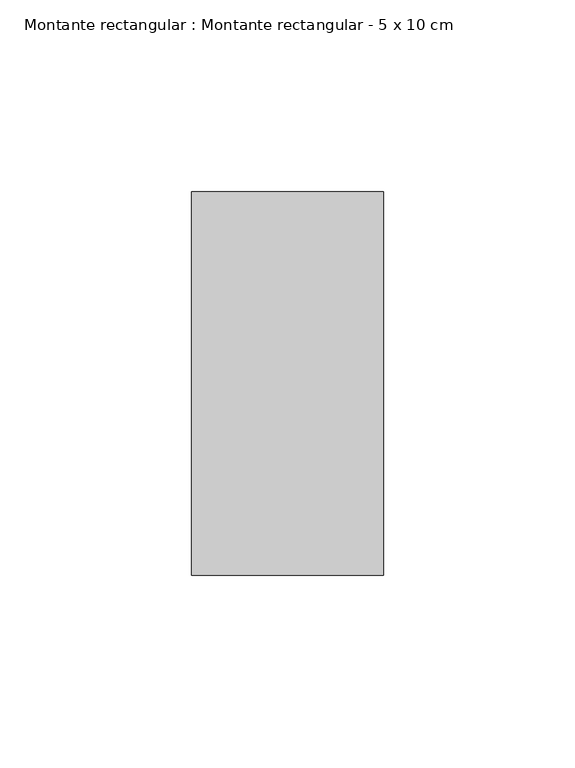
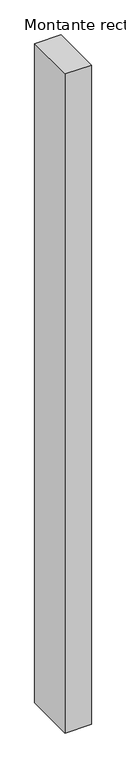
"""IFC4 building model written with IfcOpenShell, lengths in millimetres: member geometry, Montante rectangular : Montante rectangular - 5 x 10 cm."""

import ifcopenshell
import ifcopenshell.guid

model = None  # the IFC model being written
_history = None  # IfcOwnerHistory: only IFC2X3 demands one
_inside = {}  # id of a spatial element -> (the spatial element, [elements in it])
_under = {}  # id of a project, library or spatial element -> (it, [spatial elements below it])
_declared = {}  # id of a project -> (the project, [libraries it declares])
_typed = {}  # id of a type object -> (the type object, [elements of that type])
_made_of = {}  # id of a material, layer set ... -> (it, [elements and type objects made of it])


def new_model(schema):
    """Start an empty IFC model of exactly this schema.

    Asked for "IFC4X3", IfcOpenShell would pick the latest addendum, in which some entities
    have other attributes; the version numbers below select the first issue.
    IFC2X3 requires an IfcOwnerHistory on every rooted entity: one is made here for all.
    """
    global model, _history
    if schema == "IFC4X3":
        model = ifcopenshell.file(schema_version=(4, 3, 0, 0))
    else:
        model = ifcopenshell.file(schema=schema)
    _inside.clear()
    _under.clear()
    _declared.clear()
    _typed.clear()
    _made_of.clear()
    _history = None
    if model.schema == "IFC2X3":
        org = make("IfcOrganization", Name="unknown")
        user = make(
            "IfcPersonAndOrganization",
            ThePerson=make("IfcPerson", FamilyName="unknown"),
            TheOrganization=org,
        )
        app = make(
            "IfcApplication",
            ApplicationDeveloper=org,
            Version="unknown",
            ApplicationFullName="unknown",
            ApplicationIdentifier="unknown",
        )
        _history = make(
            "IfcOwnerHistory",
            OwningUser=user,
            OwningApplication=app,
            ChangeAction="ADDED",
            CreationDate=0,
        )
    return model


def make(cls, **values):
    """One entity of the class cls with the attributes given. An attribute that is None is left unset."""
    return model.create_entity(
        cls, **{name: value for name, value in values.items() if value is not None}
    )


def rooted(cls, **values):
    """An entity with a GlobalId (a new one), such as an element, a storey or a relation."""
    return make(cls, GlobalId=ifcopenshell.guid.new(), OwnerHistory=_history, **values)


def si_unit(unit_type, name, prefix=None):
    """IfcSIUnit, for example si_unit("LENGTHUNIT", "METRE", prefix="MILLI")."""
    return make("IfcSIUnit", UnitType=unit_type, Prefix=prefix, Name=name)


def assignment(units):
    """IfcUnitAssignment: the units of a project."""
    return None if units is None else make("IfcUnitAssignment", Units=units)


def point(xyz):
    """IfcCartesianPoint."""
    return None if xyz is None else make("IfcCartesianPoint", Coordinates=xyz)


def direction(xyz):
    """IfcDirection."""
    return None if xyz is None else make("IfcDirection", DirectionRatios=xyz)


def frame(location, z_axis=None, x_axis=None):
    """IfcAxis2Placement3D, a coordinate frame: its origin and axes. An axis left out is left unset."""
    return make(
        "IfcAxis2Placement3D",
        Location=point(location),
        Axis=direction(z_axis),
        RefDirection=direction(x_axis),
    )


def origin():
    """The frame at (0, 0, 0) with its axes left unset."""
    return frame((0.0, 0.0, 0.0))


def place(relative_to, where):
    """IfcLocalPlacement: puts the frame where relative to a parent placement (None: the world)."""
    return make(
        "IfcLocalPlacement", PlacementRelTo=relative_to, RelativePlacement=where
    )


def context(
    kind, dimensions, precision=None, world=None, true_north=None, identifier=None
):
    """IfcGeometricRepresentationContext, for example the 3D "Model" context."""
    return make(
        "IfcGeometricRepresentationContext",
        ContextIdentifier=identifier,
        ContextType=kind,
        CoordinateSpaceDimension=dimensions,
        Precision=precision,
        WorldCoordinateSystem=world,
        TrueNorth=true_north,
    )


def project(units=None, contexts=None):
    """IfcProject with its units and contexts."""
    return rooted(
        "IfcProject",
        Name="project",
        RepresentationContexts=contexts,
        UnitsInContext=assignment(units),
    )


def spatial(cls, under=None, at=None, **own):
    """A site, building, storey or space (cls), placed at a placement, below another one or the project."""
    s = rooted(cls, ObjectPlacement=at, **own)
    if under is not None:
        _under.setdefault(under.id(), (under, []))[1].append(s)
    return s


def polyline(points):
    """IfcPolyline through the points."""
    return make("IfcPolyline", Points=[point(p) for p in points])


def outline(outer, holes=None, kind="AREA"):
    """IfcArbitraryClosedProfileDef: a profile drawn as a closed curve; with holes, ...WithVoids."""
    if holes is None:
        return make("IfcArbitraryClosedProfileDef", ProfileType=kind, OuterCurve=outer)
    return make(
        "IfcArbitraryProfileDefWithVoids",
        ProfileType=kind,
        OuterCurve=outer,
        InnerCurves=holes,
    )


def extrude(swept, where, along, depth):
    """IfcExtrudedAreaSolid: the profile swept, set in the frame where, extruded along a direction by depth."""
    return make(
        "IfcExtrudedAreaSolid",
        SweptArea=swept,
        Position=where,
        ExtrudedDirection=direction(along),
        Depth=depth,
    )


def shape(context_of_items, identifier, shape_type, items):
    """IfcShapeRepresentation: the items that make up one representation, for example the "Body"."""
    return make(
        "IfcShapeRepresentation",
        ContextOfItems=context_of_items,
        RepresentationIdentifier=identifier,
        RepresentationType=shape_type,
        Items=items,
    )


def source(mapping_origin, context_of_items, identifier, shape_type, items):
    """IfcRepresentationMap: a shape defined once, which mapped items show again and again."""
    return make(
        "IfcRepresentationMap",
        MappingOrigin=mapping_origin,
        MappedRepresentation=shape(context_of_items, identifier, shape_type, items),
    )


def transform(
    local_origin,
    x_axis=None,
    y_axis=None,
    z_axis=None,
    scale=None,
    scale2=None,
    scale3=None,
    uniform=True,
):
    """IfcCartesianTransformationOperator3D, or its non-uniform kind. x_axis, y_axis, z_axis: its Axis1, 2, 3."""
    if uniform:
        return make(
            "IfcCartesianTransformationOperator3D",
            Axis1=direction(x_axis),
            Axis2=direction(y_axis),
            LocalOrigin=point(local_origin),
            Scale=scale,
            Axis3=direction(z_axis),
        )
    return make(
        "IfcCartesianTransformationOperator3DnonUniform",
        Axis1=direction(x_axis),
        Axis2=direction(y_axis),
        LocalOrigin=point(local_origin),
        Scale=scale,
        Axis3=direction(z_axis),
        Scale2=scale2,
        Scale3=scale3,
    )


def mapped(mapping_source, mapping_target):
    """IfcMappedItem: shows the shape of a source again, moved by a transform."""
    return make(
        "IfcMappedItem", MappingSource=mapping_source, MappingTarget=mapping_target
    )


def made_of(thing, what):
    """Note that an element or type object is made of a material, layer set ...; save() writes the relation."""
    if what is not None:
        _made_of.setdefault(what.id(), (what, []))[1].append(thing)
    return thing


def element(
    cls,
    number,
    at=None,
    inside=None,
    cuts=None,
    type_object=None,
    material=None,
    context=None,
    identifier="Body",
    shape_type=None,
    held_by="IfcProductDefinitionShape",
    body=None,
    shapes=None,
    **own,
):
    """One element of the class cls, such as IfcWall. Its Tag is "e" and its number.

    at: its placement. inside: the storey or other place that contains it. cuts: it is an
    opening in that element (IfcRelVoidsElement). A single representation is given by context,
    identifier, shape_type and body (its items); several are given by shapes. held_by: the class
    of the entity that holds the representations. save() writes the other relations.
    """
    e = rooted(cls, Tag="e%d" % number, ObjectPlacement=at, **own)
    if body is not None:
        shapes = [shape(context, identifier, shape_type, body)]
    if shapes is not None:
        e.Representation = make(held_by, Representations=shapes)
    if inside is not None:
        _inside.setdefault(inside.id(), (inside, []))[1].append(e)
    if cuts is not None:
        rooted(
            "IfcRelVoidsElement", RelatingBuildingElement=cuts, RelatedOpeningElement=e
        )
    if type_object is not None:
        _typed.setdefault(type_object.id(), (type_object, []))[1].append(e)
    return made_of(e, material)


def aggregate(whole, parts):
    """IfcRelAggregates: a whole, such as a stair, and the parts it consists of."""
    return rooted("IfcRelAggregates", RelatingObject=whole, RelatedObjects=parts)


def save(model, path):
    """Write the relations noted so far, then the file.

    IfcRelAggregates (storeys below a building ...), IfcRelContainedInSpatialStructure (elements
    in a storey), IfcRelDefinesByType, IfcRelAssociatesMaterial and IfcRelDeclares: one each for
    every whole, place, type object, material and project.
    """
    for whole, parts in _under.values():
        aggregate(whole, parts)
    for where, things in _inside.values():
        rooted(
            "IfcRelContainedInSpatialStructure",
            RelatedElements=things,
            RelatingStructure=where,
        )
    for kind, things in _typed.values():
        rooted("IfcRelDefinesByType", RelatedObjects=things, RelatingType=kind)
    for what, things in _made_of.values():
        rooted("IfcRelAssociatesMaterial", RelatedObjects=things, RelatingMaterial=what)
    for by, libraries in _declared.values():
        rooted("IfcRelDeclares", RelatingContext=by, RelatedDefinitions=libraries)
    model.write(path)


def montante_rectangular_montante_rectangular_5_x_10_cm_83846118(model_context):
    return source(origin(), model_context, "Body", "SweptSolid", [
        extrude(outline(polyline([(25.0, 50.0), (25.0, -50.0), (-25.0, -50.0), (-25.0, 50.0), (25.0, 50.0)])), frame((0.0, 0.0, -1325.0), z_axis=(0.0, 0.0, 1.0), x_axis=(1.0, 0.0, 0.0)), (0.0, 0.0, 1.0), 1325.0),
    ])


if __name__ == "__main__":
    model = new_model("IFC4")
    model_context = context("Model", 3, world=origin())
    ifc_project = project(units=[si_unit("LENGTHUNIT", "METRE", prefix="MILLI")], contexts=[model_context])
    site = spatial("IfcSite", under=ifc_project)
    building = spatial("IfcBuilding", under=site)
    placement = place(None, origin())
    montante_rectangular_montante_rectangular_5_x_10_cm_shape = montante_rectangular_montante_rectangular_5_x_10_cm_83846118(model_context)
    element("IfcMember", 1, ObjectType="Montante rectangular : Montante rectangular - 5 x 10 cm", at=placement, inside=building, context=model_context, shape_type="MappedRepresentation", body=[
        mapped(montante_rectangular_montante_rectangular_5_x_10_cm_shape, transform((0.0, 0.0, 0.0), x_axis=(1.0, 0.0, 0.0), y_axis=(0.0, 1.0, 0.0), z_axis=(0.0, 0.0, 1.0))),
    ])
    save(model, "model.ifc")
